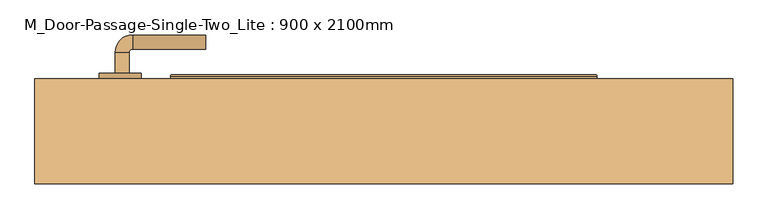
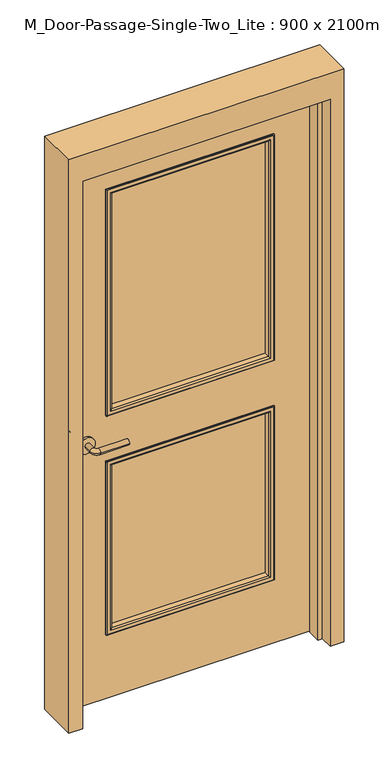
"""IFC4 building model written with IfcOpenShell, lengths in millimetres: door geometry, M_Door-Passage-Single-Two_Lite : 900 x 2100mm."""

from ifc_helpers import new_model, si_unit, point, frame, frame_2d, origin, place, context, project, spatial, polyline, circle_curve, ellipse_curve, trimmed, segment, composite_curve, outline, extrude, faceted_brep, source, transform, mapped, element, save
from ifc_brep_helpers import plane_surface, cylinder_surface, revolved_surface, advanced_brep


def m_door_passage_single_two_lite_900_x_2100mm_9ab57f22(model_context):
    return source(origin(), model_context, "Body", "SolidModel", [
        advanced_brep(
        [(-384.990625, -26.65, 1000.0), (-364.990625, -26.65, 1000.0), (-364.990625, -56.65, 1000.0), (-384.990625, -56.65, 1000.0), (-359.990625, -61.65, 1000.0), (-359.990625, -81.65, 1000.0), (-254.990625, -81.65, 1000.0), (-254.990625, -61.65, 1000.0)],
        [
            (0, 1, circle_curve(frame((-374.990625, -26.65, 1000.0), z_axis=(0.0, 1.0, 0.0), x_axis=(1.0, 0.0, 0.0)), 10.0)),
            (1, 0, circle_curve(frame((-374.990625, -26.65, 1000.0), z_axis=(0.0, 1.0, 0.0), x_axis=(1.0, 0.0, 0.0)), 10.0)),
            (1, 2),
            (2, 3, circle_curve(frame((-374.990625, -56.65, 1000.0), z_axis=(0.0, 1.0, 0.0), x_axis=(1.0, 0.0, 0.0)), 10.0)),
            (3, 0),
            (3, 2, circle_curve(frame((-374.990625, -56.65, 1000.0), z_axis=(0.0, 1.0, 0.0), x_axis=(1.0, 0.0, 0.0)), 10.0)),
            (4, 5, circle_curve(frame((-359.990625, -71.65, 1000.0), z_axis=(-1.0, 0.0, 0.0), x_axis=(0.0, 1.0, 0.0)), 10.0)),
            (5, 3, circle_curve(frame((-359.990625, -56.65, 1000.0), z_axis=(0.0, 0.0, -1.0), x_axis=(-1.0, 0.0, 0.0)), 25.0)),
            (2, 4, circle_curve(frame((-359.990625, -56.65, 1000.0), z_axis=(0.0, 0.0, 1.0), x_axis=(-1.0, 0.0, 0.0)), 5.0)),
            (5, 4, circle_curve(frame((-359.990625, -71.65, 1000.0), z_axis=(-1.0, 0.0, 0.0), x_axis=(0.0, 1.0, 0.0)), 10.0)),
            (6, 7, circle_curve(frame((-254.990625, -71.65, 1000.0), z_axis=(1.0, 0.0, 0.0), x_axis=(0.0, 1.0, 0.0)), 10.0)),
            (7, 6, circle_curve(frame((-254.990625, -71.65, 1000.0), z_axis=(1.0, 0.0, 0.0), x_axis=(0.0, 1.0, 0.0)), 10.0)),
            (4, 7),
            (6, 5),
        ],
        [
            plane_surface(frame((-374.990625, -26.65, 1000.0), z_axis=(0.0, 1.0, 0.0), x_axis=(0.0, 0.0, 1.0))),
            cylinder_surface(frame((-374.990625, -26.65, 1000.0), z_axis=(0.0, 1.0, 0.0), x_axis=(1.0, 0.0, 0.0)), 10.0),
            revolved_surface(trimmed(ellipse_curve(frame((-374.990625, -56.65, 1000.0), z_axis=(0.0, -1.0, 0.0), x_axis=(1.0, 0.0, 0.0)), 10.0, 10.0), [point((-384.990625, -56.65, 1000.0))], [point((-364.990625, -56.65, 1000.0))], True, "CARTESIAN"), (-359.990625, -56.65, 1000.0), (0.0, 0.0, -1.0)),
            revolved_surface(trimmed(ellipse_curve(frame((-374.990625, -56.65, 1000.0), z_axis=(0.0, -1.0, 0.0), x_axis=(1.0, 0.0, 0.0)), 10.0, 10.0), [point((-364.990625, -56.65, 1000.0))], [point((-384.990625, -56.65, 1000.0))], True, "CARTESIAN"), (-359.990625, -56.65, 1000.0), (0.0, 0.0, -1.0)),
            plane_surface(frame((-254.990625, -71.65, 1000.0), z_axis=(1.0, 0.0, 0.0), x_axis=(0.0, 0.0, 1.0))),
            cylinder_surface(frame((-359.990625, -71.65, 1000.0), z_axis=(-1.0, 0.0, 0.0), x_axis=(0.0, 1.0, 0.0)), 10.0),
        ],
        [
            (0, [[1, 2]]),
            (1, [[3, 4, 5, -2]]),
            (1, [[-5, 6, -3, -1]]),
            (2, [[7, 8, -4, 9]]),
            (3, [[10, -9, -6, -8]]),
            (4, [[11, 12]]),
            (5, [[13, -11, 14, -7]]),
            (5, [[-14, -12, -13, -10]]),
        ],
    ),
        extrude(outline(composite_curve([segment(trimmed(circle_curve(frame_2d((1000.0, -377.490625)), 30.0), [point((1000.0, -407.490625))], [point((1000.0, -347.490625))], False, "CARTESIAN"), True, "CONTINUOUS"), segment(trimmed(circle_curve(frame_2d((1000.0, -377.490625)), 30.0), [point((1000.0, -347.490625))], [point((1000.0, -407.490625))], False, "CARTESIAN"), True, "CONTINUOUS")], self_intersect=False)), frame((0.0, -26.65, 0.0), z_axis=(0.0, 1.0, 0.0), x_axis=(0.0, 0.0, 1.0)), (0.0, 0.0, 1.0), 8.0),
        advanced_brep(
        [(-384.990625, 34.35, 1000.0), (-364.990625, 34.35, 1000.0), (-384.990625, 64.35, 1000.0), (-364.990625, 64.35, 1000.0), (-359.990625, 69.35, 1000.0), (-359.990625, 89.35, 1000.0), (-254.990625, 89.35, 1000.0), (-254.990625, 69.35, 1000.0)],
        [
            (0, 1, circle_curve(frame((-374.990625, 34.35, 1000.0), z_axis=(0.0, -1.0, 0.0), x_axis=(1.0, 0.0, 0.0)), 10.0)),
            (1, 0, circle_curve(frame((-374.990625, 34.35, 1000.0), z_axis=(0.0, -1.0, 0.0), x_axis=(1.0, 0.0, 0.0)), 10.0)),
            (0, 2),
            (2, 3, circle_curve(frame((-374.990625, 64.35, 1000.0), z_axis=(0.0, -1.0, 0.0), x_axis=(1.0, 0.0, 0.0)), 10.0)),
            (3, 1),
            (3, 2, circle_curve(frame((-374.990625, 64.35, 1000.0), z_axis=(0.0, -1.0, 0.0), x_axis=(1.0, 0.0, 0.0)), 10.0)),
            (4, 3, circle_curve(frame((-359.990625, 64.35, 1000.0), z_axis=(0.0, 0.0, 1.0), x_axis=(-1.0, 0.0, 0.0)), 5.0)),
            (2, 5, circle_curve(frame((-359.990625, 64.35, 1000.0), z_axis=(0.0, 0.0, -1.0), x_axis=(-1.0, 0.0, 0.0)), 25.0)),
            (5, 4, circle_curve(frame((-359.990625, 79.35, 1000.0), z_axis=(-1.0, 0.0, 0.0), x_axis=(0.0, -1.0, 0.0)), 10.0)),
            (4, 5, circle_curve(frame((-359.990625, 79.35, 1000.0), z_axis=(-1.0, 0.0, 0.0), x_axis=(0.0, -1.0, 0.0)), 10.0)),
            (6, 7, circle_curve(frame((-254.990625, 79.35, 1000.0), z_axis=(1.0, 0.0, 0.0), x_axis=(0.0, -1.0, 0.0)), 10.0)),
            (7, 6, circle_curve(frame((-254.990625, 79.35, 1000.0), z_axis=(1.0, 0.0, 0.0), x_axis=(0.0, -1.0, 0.0)), 10.0)),
            (5, 6),
            (7, 4),
        ],
        [
            plane_surface(frame((-374.990625, 34.35, 1000.0), z_axis=(0.0, -1.0, 0.0), x_axis=(0.0, 0.0, 1.0))),
            cylinder_surface(frame((-374.990625, 34.35, 1000.0), z_axis=(0.0, -1.0, 0.0), x_axis=(1.0, 0.0, 0.0)), 10.0),
            revolved_surface(trimmed(ellipse_curve(frame((-374.990625, 64.35, 1000.0), z_axis=(0.0, -1.0, 0.0), x_axis=(1.0, 0.0, 0.0)), 10.0, 10.0), [point((-384.990625, 64.35, 1000.0))], [point((-364.990625, 64.35, 1000.0))], True, "CARTESIAN"), (-359.990625, 64.35, 1000.0), (0.0, 0.0, -1.0)),
            revolved_surface(trimmed(ellipse_curve(frame((-374.990625, 64.35, 1000.0), z_axis=(0.0, -1.0, 0.0), x_axis=(1.0, 0.0, 0.0)), 10.0, 10.0), [point((-364.990625, 64.35, 1000.0))], [point((-384.990625, 64.35, 1000.0))], True, "CARTESIAN"), (-359.990625, 64.35, 1000.0), (0.0, 0.0, -1.0)),
            plane_surface(frame((-254.990625, 79.35, 1000.0), z_axis=(1.0, 0.0, 0.0), x_axis=(0.0, 0.0, 1.0))),
            cylinder_surface(frame((-359.990625, 79.35, 1000.0), z_axis=(-1.0, 0.0, 0.0), x_axis=(0.0, -1.0, 0.0)), 10.0),
        ],
        [
            (0, [[1, 2]]),
            (1, [[-1, 3, 4, 5]]),
            (1, [[-2, -5, 6, -3]]),
            (2, [[7, -4, 8, 9]]),
            (3, [[-8, -6, -7, 10]]),
            (4, [[11, 12]]),
            (5, [[-9, 13, -12, 14]]),
            (5, [[-10, -14, -11, -13]]),
        ],
    ),
        extrude(outline(composite_curve([segment(trimmed(circle_curve(frame_2d((1000.0, -377.490625)), 30.0), [point((1000.0, -407.490625))], [point((1000.0, -347.490625))], False, "CARTESIAN"), True, "CONTINUOUS"), segment(trimmed(circle_curve(frame_2d((1000.0, -377.490625)), 30.0), [point((1000.0, -347.490625))], [point((1000.0, -407.490625))], False, "CARTESIAN"), True, "CONTINUOUS")], self_intersect=False)), frame((0.0, 26.35, 0.0), z_axis=(0.0, 1.0, 0.0), x_axis=(0.0, 0.0, 1.0)), (0.0, 0.0, 1.0), 8.0),
        faceted_brep([(450.0, -23.4125, 0.0), (450.0, 26.35, 0.0), (500.0, 26.35, 0.0), (500.0, -123.65, 0.0), (450.0, -123.65, 0.0), (450.0, -74.4375, 0.0), (434.125, -74.4375, 0.0), (434.125, -23.4125, 0.0), (450.0, -23.4125, 2100.0), (450.0, 26.35, 2100.0), (-450.0, 26.35, 2100.0), (-450.0, 26.35, 0.0), (-500.0, 26.35, 0.0), (-500.0, 26.35, 2200.0), (500.0, 26.35, 2200.0), (500.0, -123.65, 2200.0), (-500.0, -123.65, 2200.0), (-500.0, -123.65, 0.0), (-450.0, -123.65, 0.0), (-450.0, -123.65, 2100.0), (450.0, -123.65, 2100.0), (450.0, -74.4375, 2100.0), (-450.0, -74.4375, 2100.0), (-450.0, -74.4375, 0.0), (-434.125, -74.4375, 0.0), (-434.125, -74.4375, 2084.125), (434.125, -74.4375, 2084.125), (434.125, -23.4125, 2084.125), (-434.125, -23.4125, 2084.125), (-434.125, -23.4125, 0.0), (-450.0, -23.4125, 0.0), (-450.0, -23.4125, 2100.0)], [[[0, 1, 2, 3, 4, 5, 6, 7]], [[1, 0, 8, 9]], [[2, 1, 9, 10, 11, 12, 13, 14]], [[3, 2, 14, 15]], [[4, 3, 15, 16, 17, 18, 19, 20]], [[5, 4, 20, 21]], [[6, 5, 21, 22, 23, 24, 25, 26]], [[7, 6, 26, 27]], [[0, 7, 27, 28, 29, 30, 31, 8]], [[9, 8, 31, 10]], [[20, 19, 22, 21]], [[26, 25, 28, 27]], [[12, 11, 30, 29, 24, 23, 18, 17]], [[11, 10, 31, 30]], [[13, 12, 17, 16]], [[19, 18, 23, 22]], [[25, 24, 29, 28]], [[15, 14, 13, 16]]]),
        extrude(outline(polyline([(2100.0, -450.0), (0.0, -450.0), (0.0, 450.0), (2100.0, 450.0), (2100.0, -450.0)]), holes=[polyline([(1947.6, -297.6), (1947.6, 297.6), (1095.25, 297.6), (1095.25, -297.6), (1947.6, -297.6)]), polyline([(904.75, -297.6), (904.75, 297.6), (254.0, 297.6), (254.0, -297.6), (904.75, -297.6)])]), frame((0.0, -18.65, 0.0), z_axis=(0.0, 1.0, 0.0), x_axis=(0.0, 0.0, 1.0)), (0.0, 0.0, 1.0), 45.0),
        extrude(outline(polyline([(297.6, 1.35), (-297.6, 1.35), (-297.6, 6.35), (297.6, 6.35), (297.6, 1.35)])), frame((0.0, 0.0, 1095.25), z_axis=(0.0, 0.0, 1.0), x_axis=(1.0, 0.0, 0.0)), (0.0, 0.0, 1.0), 852.35),
        extrude(outline(polyline([(297.6, 1.35), (-297.6, 1.35), (-297.6, 6.35), (297.6, 6.35), (297.6, 1.35)])), frame((0.0, 0.0, 254.0), z_axis=(0.0, 0.0, 1.0), x_axis=(1.0, 0.0, 0.0)), (0.0, 0.0, 1.0), 650.75),
        advanced_brep(
        [(297.6, 1.35, 904.75), (297.6, -18.65, 904.75), (297.6, -18.65, 254.0), (297.6, 1.35, 254.0), (285.6, -19.65, 892.75), (285.6, 1.35, 892.75), (285.6, 1.35, 266.0), (285.6, -19.65, 266.0), (290.6, -24.65, 897.75), (290.6, -24.65, 261.0), (305.6, -22.65, 912.75), (303.6, -24.65, 910.75), (303.6, -24.65, 248.0), (305.6, -22.65, 246.0), (305.6, -18.65, 912.75), (305.6, -18.65, 246.0), (-297.6, -18.65, 254.0), (-297.6, 1.35, 254.0), (-285.6, 1.35, 266.0), (-285.6, -19.65, 266.0), (-290.6, -24.65, 261.0), (-303.6, -24.65, 248.0), (-305.6, -22.65, 246.0), (-305.6, -18.65, 246.0), (-297.6, -18.65, 904.75), (-297.6, 1.35, 904.75), (-285.6, 1.35, 892.75), (-285.6, -19.65, 892.75), (-290.6, -24.65, 897.75), (-303.6, -24.65, 910.75), (-305.6, -22.65, 912.75), (-305.6, -18.65, 912.75)],
        [
            (0, 1),
            (1, 2),
            (2, 3),
            (3, 0),
            (4, 5),
            (5, 6),
            (6, 7),
            (7, 4),
            (8, 4, ellipse_curve(frame((290.6, -19.65, 897.75), z_axis=(0.7071067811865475, 0.0, -0.7071067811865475), x_axis=(0.7071067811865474, 0.0, 0.7071067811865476)), 7.0710678, 5.0)),
            (7, 9, ellipse_curve(frame((290.6, -19.65, 261.0), z_axis=(0.7071067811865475, 0.0, 0.7071067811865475), x_axis=(-0.7071067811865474, 0.0, 0.7071067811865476)), 7.0710678, 5.0)),
            (9, 8),
            (10, 11, ellipse_curve(frame((303.6, -22.65, 910.75), z_axis=(0.7071067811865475, 0.0, -0.7071067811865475), x_axis=(0.7071067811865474, 0.0, 0.7071067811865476)), 2.8284271, 2.0)),
            (11, 12),
            (12, 13, ellipse_curve(frame((303.6, -22.65, 248.0), z_axis=(0.7071067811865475, 0.0, 0.7071067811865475), x_axis=(-0.7071067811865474, 0.0, 0.7071067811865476)), 2.8284271, 2.0)),
            (13, 10),
            (14, 10),
            (13, 15),
            (15, 14),
            (2, 16),
            (16, 17),
            (17, 3),
            (6, 18),
            (18, 19),
            (19, 7),
            (19, 20, ellipse_curve(frame((-290.6, -19.65, 261.0), z_axis=(0.7071067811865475, 0.0, -0.7071067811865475), x_axis=(0.7071067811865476, 0.0, 0.7071067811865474)), 7.0710678, 5.0)),
            (20, 9),
            (12, 21),
            (21, 22, ellipse_curve(frame((-303.6, -22.65, 248.0), z_axis=(0.7071067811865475, 0.0, -0.7071067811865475), x_axis=(0.7071067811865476, 0.0, 0.7071067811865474)), 2.8284271, 2.0)),
            (22, 13),
            (22, 23),
            (23, 15),
            (16, 24),
            (24, 25),
            (25, 17),
            (18, 26),
            (26, 27),
            (27, 19),
            (27, 28, ellipse_curve(frame((-290.6, -19.65, 897.75), z_axis=(-0.7071067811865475, 0.0, -0.7071067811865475), x_axis=(0.7071067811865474, 0.0, -0.7071067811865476)), 7.0710678, 5.0)),
            (28, 20),
            (21, 29),
            (29, 30, ellipse_curve(frame((-303.6, -22.65, 910.75), z_axis=(-0.7071067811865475, 0.0, -0.7071067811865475), x_axis=(0.7071067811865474, 0.0, -0.7071067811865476)), 2.8284271, 2.0)),
            (30, 22),
            (30, 31),
            (31, 23),
            (31, 14),
            (1, 24),
            (0, 25),
            (5, 26),
            (4, 27),
            (8, 28),
            (11, 29),
            (10, 30),
        ],
        [
            plane_surface(frame((297.6, -18.65, 904.75), z_axis=(1.0, 0.0, 0.0), x_axis=(0.0, 0.0, -1.0))),
            plane_surface(frame((285.6, 1.35, 892.75), z_axis=(-1.0, 0.0, 0.0), x_axis=(0.0, 0.0, -1.0))),
            cylinder_surface(frame((290.6, -19.65, 904.75), z_axis=(0.0, 0.0, 1.0), x_axis=(1.0, 0.0, 0.0)), 5.0),
            cylinder_surface(frame((303.6, -22.65, 904.75), z_axis=(0.0, 0.0, 1.0), x_axis=(1.0, 0.0, 0.0)), 2.0),
            plane_surface(frame((305.6, -22.65, 912.75), z_axis=(1.0, 0.0, 0.0), x_axis=(0.0, 0.0, -1.0))),
            plane_surface(frame((297.6, -18.65, 254.0), z_axis=(0.0, 0.0, -1.0), x_axis=(-1.0, 0.0, 0.0))),
            plane_surface(frame((285.6, 1.35, 266.0), z_axis=(0.0, 0.0, 1.0), x_axis=(-1.0, 0.0, 0.0))),
            cylinder_surface(frame((297.6, -19.65, 261.0), z_axis=(1.0, 0.0, 0.0), x_axis=(0.0, 0.0, -1.0)), 5.0),
            cylinder_surface(frame((297.6, -22.65, 248.0), z_axis=(1.0, 0.0, 0.0), x_axis=(0.0, 0.0, -1.0)), 2.0),
            plane_surface(frame((305.6, -22.65, 246.0), z_axis=(0.0, 0.0, -1.0), x_axis=(-1.0, 0.0, 0.0))),
            plane_surface(frame((-297.6, -18.65, 254.0), z_axis=(-1.0, 0.0, 0.0), x_axis=(0.0, 0.0, 1.0))),
            plane_surface(frame((-285.6, 1.35, 266.0), z_axis=(1.0, 0.0, 0.0), x_axis=(0.0, 0.0, 1.0))),
            cylinder_surface(frame((-290.6, -19.65, 254.0), z_axis=(0.0, 0.0, -1.0), x_axis=(-1.0, 0.0, 0.0)), 5.0),
            cylinder_surface(frame((-303.6, -22.65, 254.0), z_axis=(0.0, 0.0, -1.0), x_axis=(-1.0, 0.0, 0.0)), 2.0),
            plane_surface(frame((-305.6, -22.65, 246.0), z_axis=(-1.0, 0.0, 0.0), x_axis=(0.0, 0.0, 1.0))),
            plane_surface(frame((-305.6, -18.65, 912.75), z_axis=(0.0, 1.0, 0.0), x_axis=(1.0, 0.0, 0.0))),
            plane_surface(frame((-297.6, -18.65, 904.75), z_axis=(0.0, 0.0, 1.0), x_axis=(1.0, 0.0, 0.0))),
            plane_surface(frame((-297.6, 1.35, 904.75), z_axis=(0.0, 1.0, 0.0), x_axis=(1.0, 0.0, 0.0))),
            plane_surface(frame((-285.6, 1.35, 892.75), z_axis=(0.0, 0.0, -1.0), x_axis=(1.0, 0.0, 0.0))),
            cylinder_surface(frame((-297.6, -19.65, 897.75), z_axis=(-1.0, 0.0, 0.0), x_axis=(0.0, 0.0, 1.0)), 5.0),
            plane_surface(frame((-290.6, -24.65, 897.75), z_axis=(0.0, -1.0, 0.0), x_axis=(1.0, 0.0, 0.0))),
            cylinder_surface(frame((-297.6, -22.65, 910.75), z_axis=(-1.0, 0.0, 0.0), x_axis=(0.0, 0.0, 1.0)), 2.0),
            plane_surface(frame((-305.6, -22.65, 912.75), z_axis=(0.0, 0.0, 1.0), x_axis=(1.0, 0.0, 0.0))),
        ],
        [
            (0, [[1, 2, 3, 4]]),
            (1, [[5, 6, 7, 8]]),
            (2, [[9, -8, 10, 11]]),
            (3, [[12, 13, 14, 15]]),
            (4, [[16, -15, 17, 18]]),
            (5, [[-3, 19, 20, 21]]),
            (6, [[-7, 22, 23, 24]]),
            (7, [[-10, -24, 25, 26]]),
            (8, [[-14, 27, 28, 29]]),
            (9, [[-17, -29, 30, 31]]),
            (10, [[-20, 32, 33, 34]]),
            (11, [[-23, 35, 36, 37]]),
            (12, [[-25, -37, 38, 39]]),
            (13, [[-28, 40, 41, 42]]),
            (14, [[-30, -42, 43, 44]]),
            (15, [[-31, -44, 45, -18], [46, -32, -19, -2]]),
            (16, [[-33, -46, -1, 47]]),
            (17, [[-21, -34, -47, -4], [48, -35, -22, -6]]),
            (18, [[-36, -48, -5, 49]]),
            (19, [[-38, -49, -9, 50]]),
            (20, [[51, -40, -27, -13], [-26, -39, -50, -11]]),
            (21, [[-41, -51, -12, 52]]),
            (22, [[-43, -52, -16, -45]]),
        ],
    ),
        advanced_brep(
        [(-297.6, 6.35, 904.75), (-297.6, 26.35, 904.75), (-297.6, 26.35, 254.0), (-297.6, 6.35, 254.0), (-285.6, 27.35, 892.75), (-285.6, 6.35, 892.75), (-285.6, 6.35, 266.0), (-285.6, 27.35, 266.0), (-290.6, 32.35, 897.75), (-290.6, 32.35, 261.0), (-305.6, 30.35, 912.75), (-303.6, 32.35, 910.75), (-303.6, 32.35, 248.0), (-305.6, 30.35, 246.0), (-305.6, 26.35, 912.75), (-305.6, 26.35, 246.0), (297.6, 26.35, 254.0), (297.6, 6.35, 254.0), (285.6, 6.35, 266.0), (285.6, 27.35, 266.0), (290.6, 32.35, 261.0), (303.6, 32.35, 248.0), (305.6, 30.35, 246.0), (305.6, 26.35, 246.0), (297.6, 26.35, 904.75), (297.6, 6.35, 904.75), (285.6, 6.35, 892.75), (285.6, 27.35, 892.75), (290.6, 32.35, 897.75), (303.6, 32.35, 910.75), (305.6, 30.35, 912.75), (305.6, 26.35, 912.75)],
        [
            (0, 1),
            (1, 2),
            (2, 3),
            (3, 0),
            (4, 5),
            (5, 6),
            (6, 7),
            (7, 4),
            (8, 4, ellipse_curve(frame((-290.6, 27.35, 897.75), z_axis=(-0.7071067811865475, 0.0, -0.7071067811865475), x_axis=(-0.7071067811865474, 0.0, 0.7071067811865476)), 7.0710678, 5.0)),
            (7, 9, ellipse_curve(frame((-290.6, 27.35, 261.0), z_axis=(-0.7071067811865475, 0.0, 0.7071067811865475), x_axis=(0.7071067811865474, 0.0, 0.7071067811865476)), 7.0710678, 5.0)),
            (9, 8),
            (10, 11, ellipse_curve(frame((-303.6, 30.35, 910.75), z_axis=(-0.7071067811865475, 0.0, -0.7071067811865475), x_axis=(-0.7071067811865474, 0.0, 0.7071067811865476)), 2.8284271, 2.0)),
            (11, 12),
            (12, 13, ellipse_curve(frame((-303.6, 30.35, 248.0), z_axis=(-0.7071067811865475, 0.0, 0.7071067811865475), x_axis=(0.7071067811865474, 0.0, 0.7071067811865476)), 2.8284271, 2.0)),
            (13, 10),
            (14, 10),
            (13, 15),
            (15, 14),
            (2, 16),
            (16, 17),
            (17, 3),
            (6, 18),
            (18, 19),
            (19, 7),
            (19, 20, ellipse_curve(frame((290.6, 27.35, 261.0), z_axis=(-0.7071067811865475, 0.0, -0.7071067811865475), x_axis=(-0.7071067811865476, 0.0, 0.7071067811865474)), 7.0710678, 5.0)),
            (20, 9),
            (12, 21),
            (21, 22, ellipse_curve(frame((303.6, 30.35, 248.0), z_axis=(-0.7071067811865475, 0.0, -0.7071067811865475), x_axis=(-0.7071067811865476, 0.0, 0.7071067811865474)), 2.8284271, 2.0)),
            (22, 13),
            (22, 23),
            (23, 15),
            (16, 24),
            (24, 25),
            (25, 17),
            (18, 26),
            (26, 27),
            (27, 19),
            (27, 28, ellipse_curve(frame((290.6, 27.35, 897.75), z_axis=(0.7071067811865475, 0.0, -0.7071067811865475), x_axis=(-0.7071067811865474, 0.0, -0.7071067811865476)), 7.0710678, 5.0)),
            (28, 20),
            (21, 29),
            (29, 30, ellipse_curve(frame((303.6, 30.35, 910.75), z_axis=(0.7071067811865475, 0.0, -0.7071067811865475), x_axis=(-0.7071067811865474, 0.0, -0.7071067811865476)), 2.8284271, 2.0)),
            (30, 22),
            (30, 31),
            (31, 23),
            (31, 14),
            (1, 24),
            (0, 25),
            (5, 26),
            (4, 27),
            (8, 28),
            (11, 29),
            (10, 30),
        ],
        [
            plane_surface(frame((-297.6, 26.35, 904.75), z_axis=(-1.0, 0.0, 0.0), x_axis=(0.0, 0.0, -1.0))),
            plane_surface(frame((-285.6, 6.35, 892.75), z_axis=(1.0, 0.0, 0.0), x_axis=(0.0, 0.0, -1.0))),
            cylinder_surface(frame((-290.6, 27.35, 904.75), z_axis=(0.0, 0.0, 1.0), x_axis=(-1.0, 0.0, 0.0)), 5.0),
            cylinder_surface(frame((-303.6, 30.35, 904.75), z_axis=(0.0, 0.0, 1.0), x_axis=(-1.0, 0.0, 0.0)), 2.0),
            plane_surface(frame((-305.6, 30.35, 912.75), z_axis=(-1.0, 0.0, 0.0), x_axis=(0.0, 0.0, -1.0))),
            plane_surface(frame((-297.6, 26.35, 254.0), z_axis=(0.0, 0.0, -1.0), x_axis=(1.0, 0.0, 0.0))),
            plane_surface(frame((-285.6, 6.35, 266.0), z_axis=(0.0, 0.0, 1.0), x_axis=(1.0, 0.0, 0.0))),
            cylinder_surface(frame((-297.6, 27.35, 261.0), z_axis=(-1.0, 0.0, 0.0), x_axis=(0.0, 0.0, -1.0)), 5.0),
            cylinder_surface(frame((-297.6, 30.35, 248.0), z_axis=(-1.0, 0.0, 0.0), x_axis=(0.0, 0.0, -1.0)), 2.0),
            plane_surface(frame((-305.6, 30.35, 246.0), z_axis=(0.0, 0.0, -1.0), x_axis=(1.0, 0.0, 0.0))),
            plane_surface(frame((297.6, 26.35, 254.0), z_axis=(1.0, 0.0, 0.0), x_axis=(0.0, 0.0, 1.0))),
            plane_surface(frame((285.6, 6.35, 266.0), z_axis=(-1.0, 0.0, 0.0), x_axis=(0.0, 0.0, 1.0))),
            cylinder_surface(frame((290.6, 27.35, 254.0), z_axis=(0.0, 0.0, -1.0), x_axis=(1.0, 0.0, 0.0)), 5.0),
            cylinder_surface(frame((303.6, 30.35, 254.0), z_axis=(0.0, 0.0, -1.0), x_axis=(1.0, 0.0, 0.0)), 2.0),
            plane_surface(frame((305.6, 30.35, 246.0), z_axis=(1.0, 0.0, 0.0), x_axis=(0.0, 0.0, 1.0))),
            plane_surface(frame((305.6, 26.35, 912.75), z_axis=(0.0, -1.0, 0.0), x_axis=(-1.0, 0.0, 0.0))),
            plane_surface(frame((297.6, 26.35, 904.75), z_axis=(0.0, 0.0, 1.0), x_axis=(-1.0, 0.0, 0.0))),
            plane_surface(frame((297.6, 6.35, 904.75), z_axis=(0.0, -1.0, 0.0), x_axis=(-1.0, 0.0, 0.0))),
            plane_surface(frame((285.6, 6.35, 892.75), z_axis=(0.0, 0.0, -1.0), x_axis=(-1.0, 0.0, 0.0))),
            cylinder_surface(frame((297.6, 27.35, 897.75), z_axis=(1.0, 0.0, 0.0), x_axis=(0.0, 0.0, 1.0)), 5.0),
            plane_surface(frame((290.6, 32.35, 897.75), z_axis=(0.0, 1.0, 0.0), x_axis=(-1.0, 0.0, 0.0))),
            cylinder_surface(frame((297.6, 30.35, 910.75), z_axis=(1.0, 0.0, 0.0), x_axis=(0.0, 0.0, 1.0)), 2.0),
            plane_surface(frame((305.6, 30.35, 912.75), z_axis=(0.0, 0.0, 1.0), x_axis=(-1.0, 0.0, 0.0))),
        ],
        [
            (0, [[1, 2, 3, 4]]),
            (1, [[5, 6, 7, 8]]),
            (2, [[9, -8, 10, 11]]),
            (3, [[12, 13, 14, 15]]),
            (4, [[16, -15, 17, 18]]),
            (5, [[-3, 19, 20, 21]]),
            (6, [[-7, 22, 23, 24]]),
            (7, [[-10, -24, 25, 26]]),
            (8, [[-14, 27, 28, 29]]),
            (9, [[-17, -29, 30, 31]]),
            (10, [[-20, 32, 33, 34]]),
            (11, [[-23, 35, 36, 37]]),
            (12, [[-25, -37, 38, 39]]),
            (13, [[-28, 40, 41, 42]]),
            (14, [[-30, -42, 43, 44]]),
            (15, [[-31, -44, 45, -18], [46, -32, -19, -2]]),
            (16, [[-33, -46, -1, 47]]),
            (17, [[-21, -34, -47, -4], [48, -35, -22, -6]]),
            (18, [[-36, -48, -5, 49]]),
            (19, [[-38, -49, -9, 50]]),
            (20, [[51, -40, -27, -13], [-26, -39, -50, -11]]),
            (21, [[-41, -51, -12, 52]]),
            (22, [[-43, -52, -16, -45]]),
        ],
    ),
        advanced_brep(
        [(-297.6, 1.35, 1095.25), (-297.6, -18.65, 1095.25), (-297.6, -18.65, 1947.6), (-297.6, 1.35, 1947.6), (-285.6, -19.65, 1107.25), (-285.6, 1.35, 1107.25), (-285.6, 1.35, 1935.6), (-285.6, -19.65, 1935.6), (-290.6, -24.65, 1102.25), (-290.6, -24.65, 1940.6), (-305.6, -22.65, 1087.25), (-303.6, -24.65, 1089.25), (-303.6, -24.65, 1953.6), (-305.6, -22.65, 1955.6), (-305.6, -18.65, 1087.25), (-305.6, -18.65, 1955.6), (297.6, -18.65, 1947.6), (297.6, 1.35, 1947.6), (285.6, 1.35, 1935.6), (285.6, -19.65, 1935.6), (290.6, -24.65, 1940.6), (303.6, -24.65, 1953.6), (305.6, -22.65, 1955.6), (305.6, -18.65, 1955.6), (297.6, -18.65, 1095.25), (297.6, 1.35, 1095.25), (285.6, 1.35, 1107.25), (285.6, -19.65, 1107.25), (290.6, -24.65, 1102.25), (303.6, -24.65, 1089.25), (305.6, -22.65, 1087.25), (305.6, -18.65, 1087.25)],
        [
            (0, 1),
            (1, 2),
            (2, 3),
            (3, 0),
            (4, 5),
            (5, 6),
            (6, 7),
            (7, 4),
            (8, 4, ellipse_curve(frame((-290.6, -19.65, 1102.25), z_axis=(-0.7071067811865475, 0.0, 0.7071067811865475), x_axis=(-0.7071067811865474, 0.0, -0.7071067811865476)), 7.0710678, 5.0)),
            (7, 9, ellipse_curve(frame((-290.6, -19.65, 1940.6), z_axis=(-0.7071067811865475, 0.0, -0.7071067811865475), x_axis=(0.7071067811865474, 0.0, -0.7071067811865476)), 7.0710678, 5.0)),
            (9, 8),
            (10, 11, ellipse_curve(frame((-303.6, -22.65, 1089.25), z_axis=(-0.7071067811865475, 0.0, 0.7071067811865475), x_axis=(-0.7071067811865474, 0.0, -0.7071067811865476)), 2.8284271, 2.0)),
            (11, 12),
            (12, 13, ellipse_curve(frame((-303.6, -22.65, 1953.6), z_axis=(-0.7071067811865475, 0.0, -0.7071067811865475), x_axis=(0.7071067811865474, 0.0, -0.7071067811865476)), 2.8284271, 2.0)),
            (13, 10),
            (14, 10),
            (13, 15),
            (15, 14),
            (2, 16),
            (16, 17),
            (17, 3),
            (6, 18),
            (18, 19),
            (19, 7),
            (19, 20, ellipse_curve(frame((290.6, -19.65, 1940.6), z_axis=(-0.7071067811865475, 0.0, 0.7071067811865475), x_axis=(-0.7071067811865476, 0.0, -0.7071067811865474)), 7.0710678, 5.0)),
            (20, 9),
            (12, 21),
            (21, 22, ellipse_curve(frame((303.6, -22.65, 1953.6), z_axis=(-0.7071067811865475, 0.0, 0.7071067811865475), x_axis=(-0.7071067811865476, 0.0, -0.7071067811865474)), 2.8284271, 2.0)),
            (22, 13),
            (22, 23),
            (23, 15),
            (16, 24),
            (24, 25),
            (25, 17),
            (18, 26),
            (26, 27),
            (27, 19),
            (27, 28, ellipse_curve(frame((290.6, -19.65, 1102.25), z_axis=(0.7071067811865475, 0.0, 0.7071067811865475), x_axis=(-0.7071067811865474, 0.0, 0.7071067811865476)), 7.0710678, 5.0)),
            (28, 20),
            (21, 29),
            (29, 30, ellipse_curve(frame((303.6, -22.65, 1089.25), z_axis=(0.7071067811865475, 0.0, 0.7071067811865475), x_axis=(-0.7071067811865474, 0.0, 0.7071067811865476)), 2.8284271, 2.0)),
            (30, 22),
            (30, 31),
            (31, 23),
            (31, 14),
            (1, 24),
            (0, 25),
            (5, 26),
            (4, 27),
            (8, 28),
            (11, 29),
            (10, 30),
        ],
        [
            plane_surface(frame((-297.6, -18.65, 1095.25), z_axis=(-1.0, 0.0, 0.0), x_axis=(0.0, 0.0, 1.0))),
            plane_surface(frame((-285.6, 1.35, 1107.25), z_axis=(1.0, 0.0, 0.0), x_axis=(0.0, 0.0, 1.0))),
            cylinder_surface(frame((-290.6, -19.65, 1095.25), z_axis=(0.0, 0.0, -1.0), x_axis=(-1.0, 0.0, 0.0)), 5.0),
            cylinder_surface(frame((-303.6, -22.65, 1095.25), z_axis=(0.0, 0.0, -1.0), x_axis=(-1.0, 0.0, 0.0)), 2.0),
            plane_surface(frame((-305.6, -22.65, 1087.25), z_axis=(-1.0, 0.0, 0.0), x_axis=(0.0, 0.0, 1.0))),
            plane_surface(frame((-297.6, -18.65, 1947.6), z_axis=(0.0, 0.0, 1.0), x_axis=(1.0, 0.0, 0.0))),
            plane_surface(frame((-285.6, 1.35, 1935.6), z_axis=(0.0, 0.0, -1.0), x_axis=(1.0, 0.0, 0.0))),
            cylinder_surface(frame((-297.6, -19.65, 1940.6), z_axis=(-1.0, 0.0, 0.0), x_axis=(0.0, 0.0, 1.0)), 5.0),
            cylinder_surface(frame((-297.6, -22.65, 1953.6), z_axis=(-1.0, 0.0, 0.0), x_axis=(0.0, 0.0, 1.0)), 2.0),
            plane_surface(frame((-305.6, -22.65, 1955.6), z_axis=(0.0, 0.0, 1.0), x_axis=(1.0, 0.0, 0.0))),
            plane_surface(frame((297.6, -18.65, 1947.6), z_axis=(1.0, 0.0, 0.0), x_axis=(0.0, 0.0, -1.0))),
            plane_surface(frame((285.6, 1.35, 1935.6), z_axis=(-1.0, 0.0, 0.0), x_axis=(0.0, 0.0, -1.0))),
            cylinder_surface(frame((290.6, -19.65, 1947.6), z_axis=(0.0, 0.0, 1.0), x_axis=(1.0, 0.0, 0.0)), 5.0),
            cylinder_surface(frame((303.6, -22.65, 1947.6), z_axis=(0.0, 0.0, 1.0), x_axis=(1.0, 0.0, 0.0)), 2.0),
            plane_surface(frame((305.6, -22.65, 1955.6), z_axis=(1.0, 0.0, 0.0), x_axis=(0.0, 0.0, -1.0))),
            plane_surface(frame((305.6, -18.65, 1087.25), z_axis=(0.0, 1.0, 0.0), x_axis=(-1.0, 0.0, 0.0))),
            plane_surface(frame((297.6, -18.65, 1095.25), z_axis=(0.0, 0.0, -1.0), x_axis=(-1.0, 0.0, 0.0))),
            plane_surface(frame((297.6, 1.35, 1095.25), z_axis=(0.0, 1.0, 0.0), x_axis=(-1.0, 0.0, 0.0))),
            plane_surface(frame((285.6, 1.35, 1107.25), z_axis=(0.0, 0.0, 1.0), x_axis=(-1.0, 0.0, 0.0))),
            cylinder_surface(frame((297.6, -19.65, 1102.25), z_axis=(1.0, 0.0, 0.0), x_axis=(0.0, 0.0, -1.0)), 5.0),
            plane_surface(frame((290.6, -24.65, 1102.25), z_axis=(0.0, -1.0, 0.0), x_axis=(-1.0, 0.0, 0.0))),
            cylinder_surface(frame((297.6, -22.65, 1089.25), z_axis=(1.0, 0.0, 0.0), x_axis=(0.0, 0.0, -1.0)), 2.0),
            plane_surface(frame((305.6, -22.65, 1087.25), z_axis=(0.0, 0.0, -1.0), x_axis=(-1.0, 0.0, 0.0))),
        ],
        [
            (0, [[1, 2, 3, 4]]),
            (1, [[5, 6, 7, 8]]),
            (2, [[9, -8, 10, 11]]),
            (3, [[12, 13, 14, 15]]),
            (4, [[16, -15, 17, 18]]),
            (5, [[-3, 19, 20, 21]]),
            (6, [[-7, 22, 23, 24]]),
            (7, [[-10, -24, 25, 26]]),
            (8, [[-14, 27, 28, 29]]),
            (9, [[-17, -29, 30, 31]]),
            (10, [[-20, 32, 33, 34]]),
            (11, [[-23, 35, 36, 37]]),
            (12, [[-25, -37, 38, 39]]),
            (13, [[-28, 40, 41, 42]]),
            (14, [[-30, -42, 43, 44]]),
            (15, [[-31, -44, 45, -18], [46, -32, -19, -2]]),
            (16, [[-33, -46, -1, 47]]),
            (17, [[-21, -34, -47, -4], [48, -35, -22, -6]]),
            (18, [[-36, -48, -5, 49]]),
            (19, [[-38, -49, -9, 50]]),
            (20, [[51, -40, -27, -13], [-26, -39, -50, -11]]),
            (21, [[-41, -51, -12, 52]]),
            (22, [[-43, -52, -16, -45]]),
        ],
    ),
        advanced_brep(
        [(-297.6, 6.35, 1947.6), (-297.6, 26.35, 1947.6), (-297.6, 26.35, 1095.25), (-297.6, 6.35, 1095.25), (-285.6, 27.35, 1935.6), (-285.6, 6.35, 1935.6), (-285.6, 6.35, 1107.25), (-285.6, 27.35, 1107.25), (-290.6, 32.35, 1940.6), (-290.6, 32.35, 1102.25), (-305.6, 30.35, 1955.6), (-303.6, 32.35, 1953.6), (-303.6, 32.35, 1089.25), (-305.6, 30.35, 1087.25), (-305.6, 26.35, 1955.6), (-305.6, 26.35, 1087.25), (297.6, 26.35, 1095.25), (297.6, 6.35, 1095.25), (285.6, 6.35, 1107.25), (285.6, 27.35, 1107.25), (290.6, 32.35, 1102.25), (303.6, 32.35, 1089.25), (305.6, 30.35, 1087.25), (305.6, 26.35, 1087.25), (297.6, 26.35, 1947.6), (297.6, 6.35, 1947.6), (285.6, 6.35, 1935.6), (285.6, 27.35, 1935.6), (290.6, 32.35, 1940.6), (303.6, 32.35, 1953.6), (305.6, 30.35, 1955.6), (305.6, 26.35, 1955.6)],
        [
            (0, 1),
            (1, 2),
            (2, 3),
            (3, 0),
            (4, 5),
            (5, 6),
            (6, 7),
            (7, 4),
            (8, 4, ellipse_curve(frame((-290.6, 27.35, 1940.6), z_axis=(-0.7071067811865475, 0.0, -0.7071067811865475), x_axis=(-0.7071067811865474, 0.0, 0.7071067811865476)), 7.0710678, 5.0)),
            (7, 9, ellipse_curve(frame((-290.6, 27.35, 1102.25), z_axis=(-0.7071067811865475, 0.0, 0.7071067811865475), x_axis=(0.7071067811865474, 0.0, 0.7071067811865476)), 7.0710678, 5.0)),
            (9, 8),
            (10, 11, ellipse_curve(frame((-303.6, 30.35, 1953.6), z_axis=(-0.7071067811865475, 0.0, -0.7071067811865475), x_axis=(-0.7071067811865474, 0.0, 0.7071067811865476)), 2.8284271, 2.0)),
            (11, 12),
            (12, 13, ellipse_curve(frame((-303.6, 30.35, 1089.25), z_axis=(-0.7071067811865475, 0.0, 0.7071067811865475), x_axis=(0.7071067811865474, 0.0, 0.7071067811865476)), 2.8284271, 2.0)),
            (13, 10),
            (14, 10),
            (13, 15),
            (15, 14),
            (2, 16),
            (16, 17),
            (17, 3),
            (6, 18),
            (18, 19),
            (19, 7),
            (19, 20, ellipse_curve(frame((290.6, 27.35, 1102.25), z_axis=(-0.7071067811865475, 0.0, -0.7071067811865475), x_axis=(-0.7071067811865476, 0.0, 0.7071067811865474)), 7.0710678, 5.0)),
            (20, 9),
            (12, 21),
            (21, 22, ellipse_curve(frame((303.6, 30.35, 1089.25), z_axis=(-0.7071067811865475, 0.0, -0.7071067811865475), x_axis=(-0.7071067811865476, 0.0, 0.7071067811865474)), 2.8284271, 2.0)),
            (22, 13),
            (22, 23),
            (23, 15),
            (16, 24),
            (24, 25),
            (25, 17),
            (18, 26),
            (26, 27),
            (27, 19),
            (27, 28, ellipse_curve(frame((290.6, 27.35, 1940.6), z_axis=(0.7071067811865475, 0.0, -0.7071067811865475), x_axis=(-0.7071067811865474, 0.0, -0.7071067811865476)), 7.0710678, 5.0)),
            (28, 20),
            (21, 29),
            (29, 30, ellipse_curve(frame((303.6, 30.35, 1953.6), z_axis=(0.7071067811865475, 0.0, -0.7071067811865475), x_axis=(-0.7071067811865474, 0.0, -0.7071067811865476)), 2.8284271, 2.0)),
            (30, 22),
            (30, 31),
            (31, 23),
            (31, 14),
            (1, 24),
            (0, 25),
            (5, 26),
            (4, 27),
            (8, 28),
            (11, 29),
            (10, 30),
        ],
        [
            plane_surface(frame((-297.6, 26.35, 1947.6), z_axis=(-1.0, 0.0, 0.0), x_axis=(0.0, 0.0, -1.0))),
            plane_surface(frame((-285.6, 6.35, 1935.6), z_axis=(1.0, 0.0, 0.0), x_axis=(0.0, 0.0, -1.0))),
            cylinder_surface(frame((-290.6, 27.35, 1947.6), z_axis=(0.0, 0.0, 1.0), x_axis=(-1.0, 0.0, 0.0)), 5.0),
            cylinder_surface(frame((-303.6, 30.35, 1947.6), z_axis=(0.0, 0.0, 1.0), x_axis=(-1.0, 0.0, 0.0)), 2.0),
            plane_surface(frame((-305.6, 30.35, 1955.6), z_axis=(-1.0, 0.0, 0.0), x_axis=(0.0, 0.0, -1.0))),
            plane_surface(frame((-297.6, 26.35, 1095.25), z_axis=(0.0, 0.0, -1.0), x_axis=(1.0, 0.0, 0.0))),
            plane_surface(frame((-285.6, 6.35, 1107.25), z_axis=(0.0, 0.0, 1.0), x_axis=(1.0, 0.0, 0.0))),
            cylinder_surface(frame((-297.6, 27.35, 1102.25), z_axis=(-1.0, 0.0, 0.0), x_axis=(0.0, 0.0, -1.0)), 5.0),
            cylinder_surface(frame((-297.6, 30.35, 1089.25), z_axis=(-1.0, 0.0, 0.0), x_axis=(0.0, 0.0, -1.0)), 2.0),
            plane_surface(frame((-305.6, 30.35, 1087.25), z_axis=(0.0, 0.0, -1.0), x_axis=(1.0, 0.0, 0.0))),
            plane_surface(frame((297.6, 26.35, 1095.25), z_axis=(1.0, 0.0, 0.0), x_axis=(0.0, 0.0, 1.0))),
            plane_surface(frame((285.6, 6.35, 1107.25), z_axis=(-1.0, 0.0, 0.0), x_axis=(0.0, 0.0, 1.0))),
            cylinder_surface(frame((290.6, 27.35, 1095.25), z_axis=(0.0, 0.0, -1.0), x_axis=(1.0, 0.0, 0.0)), 5.0),
            cylinder_surface(frame((303.6, 30.35, 1095.25), z_axis=(0.0, 0.0, -1.0), x_axis=(1.0, 0.0, 0.0)), 2.0),
            plane_surface(frame((305.6, 30.35, 1087.25), z_axis=(1.0, 0.0, 0.0), x_axis=(0.0, 0.0, 1.0))),
            plane_surface(frame((305.6, 26.35, 1955.6), z_axis=(0.0, -1.0, 0.0), x_axis=(-1.0, 0.0, 0.0))),
            plane_surface(frame((297.6, 26.35, 1947.6), z_axis=(0.0, 0.0, 1.0), x_axis=(-1.0, 0.0, 0.0))),
            plane_surface(frame((297.6, 6.35, 1947.6), z_axis=(0.0, -1.0, 0.0), x_axis=(-1.0, 0.0, 0.0))),
            plane_surface(frame((285.6, 6.35, 1935.6), z_axis=(0.0, 0.0, -1.0), x_axis=(-1.0, 0.0, 0.0))),
            cylinder_surface(frame((297.6, 27.35, 1940.6), z_axis=(1.0, 0.0, 0.0), x_axis=(0.0, 0.0, 1.0)), 5.0),
            plane_surface(frame((290.6, 32.35, 1940.6), z_axis=(0.0, 1.0, 0.0), x_axis=(-1.0, 0.0, 0.0))),
            cylinder_surface(frame((297.6, 30.35, 1953.6), z_axis=(1.0, 0.0, 0.0), x_axis=(0.0, 0.0, 1.0)), 2.0),
            plane_surface(frame((305.6, 30.35, 1955.6), z_axis=(0.0, 0.0, 1.0), x_axis=(-1.0, 0.0, 0.0))),
        ],
        [
            (0, [[1, 2, 3, 4]]),
            (1, [[5, 6, 7, 8]]),
            (2, [[9, -8, 10, 11]]),
            (3, [[12, 13, 14, 15]]),
            (4, [[16, -15, 17, 18]]),
            (5, [[-3, 19, 20, 21]]),
            (6, [[-7, 22, 23, 24]]),
            (7, [[-10, -24, 25, 26]]),
            (8, [[-14, 27, 28, 29]]),
            (9, [[-17, -29, 30, 31]]),
            (10, [[-20, 32, 33, 34]]),
            (11, [[-23, 35, 36, 37]]),
            (12, [[-25, -37, 38, 39]]),
            (13, [[-28, 40, 41, 42]]),
            (14, [[-30, -42, 43, 44]]),
            (15, [[-31, -44, 45, -18], [46, -32, -19, -2]]),
            (16, [[-33, -46, -1, 47]]),
            (17, [[-21, -34, -47, -4], [48, -35, -22, -6]]),
            (18, [[-36, -48, -5, 49]]),
            (19, [[-38, -49, -9, 50]]),
            (20, [[51, -40, -27, -13], [-26, -39, -50, -11]]),
            (21, [[-41, -51, -12, 52]]),
            (22, [[-43, -52, -16, -45]]),
        ],
    ),
    ])


if __name__ == "__main__":
    model = new_model("IFC4")
    model_context = context("Model", 3, world=origin())
    ifc_project = project(units=[si_unit("LENGTHUNIT", "METRE", prefix="MILLI")], contexts=[model_context])
    site = spatial("IfcSite", under=ifc_project)
    building = spatial("IfcBuilding", under=site)
    placement = place(None, origin())
    m_door_passage_single_two_lite_900_x_2100mm_shape = m_door_passage_single_two_lite_900_x_2100mm_9ab57f22(model_context)
    element("IfcDoor", 1, ObjectType="M_Door-Passage-Single-Two_Lite : 900 x 2100mm", at=placement, inside=building, context=model_context, shape_type="MappedRepresentation", body=[
        mapped(m_door_passage_single_two_lite_900_x_2100mm_shape, transform((0.0, 0.0, 0.0), x_axis=(1.0, 0.0, 0.0), y_axis=(0.0, 1.0, 0.0), z_axis=(0.0, 0.0, 1.0))),
    ])
    save(model, "model.ifc")
